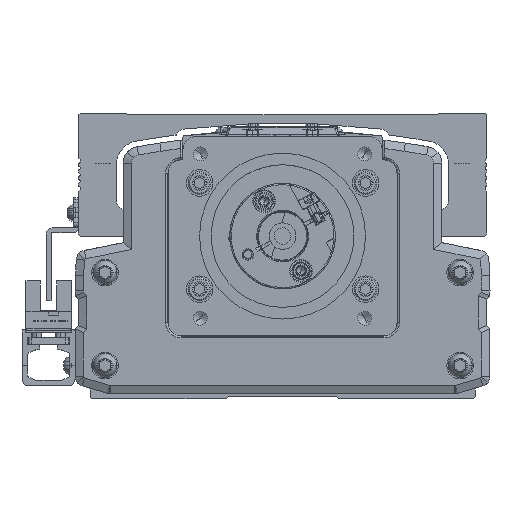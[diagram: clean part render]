
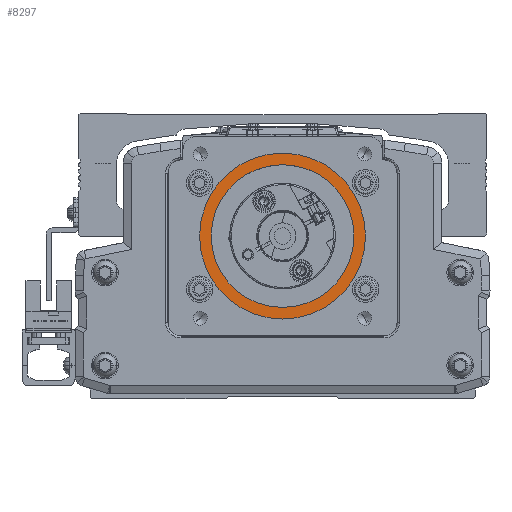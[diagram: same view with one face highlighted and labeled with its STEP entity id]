
A CAD part, front view. The second image highlights one B-rep face of the part: STEP entity #8297.
In plain terms, the highlighted planar face has unit normal (0, -1, 0).
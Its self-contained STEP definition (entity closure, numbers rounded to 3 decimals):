
#8297=ADVANCED_FACE('',(#18390,#18391),#18392,.T.);
#18390=FACE_BOUND('',#31611,.T.);
#18391=FACE_OUTER_BOUND('',#31612,.T.);
#18392=PLANE('',#31613);
#31611=EDGE_LOOP('',(#56872,#56873));
#31612=EDGE_LOOP('',(#56874,#56875));
#31613=AXIS2_PLACEMENT_3D('',#56876,#56877,#56878);
#56872=ORIENTED_EDGE('',*,*,#80372,.F.);
#56873=ORIENTED_EDGE('',*,*,#81132,.F.);
#56874=ORIENTED_EDGE('',*,*,#82204,.F.);
#56875=ORIENTED_EDGE('',*,*,#81994,.F.);
#56876=CARTESIAN_POINT('',(-300.,-635.778,0.));
#56877=DIRECTION('',(0.,-1.0,0.));
#56878=DIRECTION('',(1.0,0.,0.));
#80372=EDGE_CURVE('',#98703,#98705,#98706,.T.);
#81132=EDGE_CURVE('',#98705,#98703,#99750,.T.);
#81994=EDGE_CURVE('',#100929,#100927,#100931,.T.);
#82204=EDGE_CURVE('',#100927,#100929,#101204,.T.);
#98703=VERTEX_POINT('',#123677);
#98705=VERTEX_POINT('',#123680);
#98706=CIRCLE('',#123681,21.5);
#99750=CIRCLE('',#125352,21.5);
#100927=VERTEX_POINT('',#127003);
#100929=VERTEX_POINT('',#127006);
#100931=CIRCLE('',#127009,25.0);
#101204=CIRCLE('',#127401,25.0);
#123677=CARTESIAN_POINT('',(-278.5,-635.778,0.));
#123680=CARTESIAN_POINT('',(-321.5,-635.778,0.));
#123681=AXIS2_PLACEMENT_3D('',#144060,#144061,#144062);
#125352=AXIS2_PLACEMENT_3D('',#144991,#144992,#144993);
#127003=CARTESIAN_POINT('',(-275.,-635.778,0.));
#127006=CARTESIAN_POINT('',(-325.,-635.778,0.));
#127009=AXIS2_PLACEMENT_3D('',#146142,#146143,#146144);
#127401=AXIS2_PLACEMENT_3D('',#146416,#146417,#146418);
#144060=CARTESIAN_POINT('',(-300.,-635.778,0.));
#144061=DIRECTION('',(0.,-1.0,0.));
#144062=DIRECTION('',(1.0,0.,0.));
#144991=CARTESIAN_POINT('',(-300.,-635.778,0.));
#144992=DIRECTION('',(0.,-1.0,0.));
#144993=DIRECTION('',(1.0,0.,0.));
#146142=CARTESIAN_POINT('',(-300.,-635.778,0.));
#146143=DIRECTION('',(0.,1.0,0.));
#146144=DIRECTION('',(1.0,0.,0.));
#146416=CARTESIAN_POINT('',(-300.,-635.778,0.));
#146417=DIRECTION('',(0.,1.0,0.));
#146418=DIRECTION('',(1.0,0.,0.));
